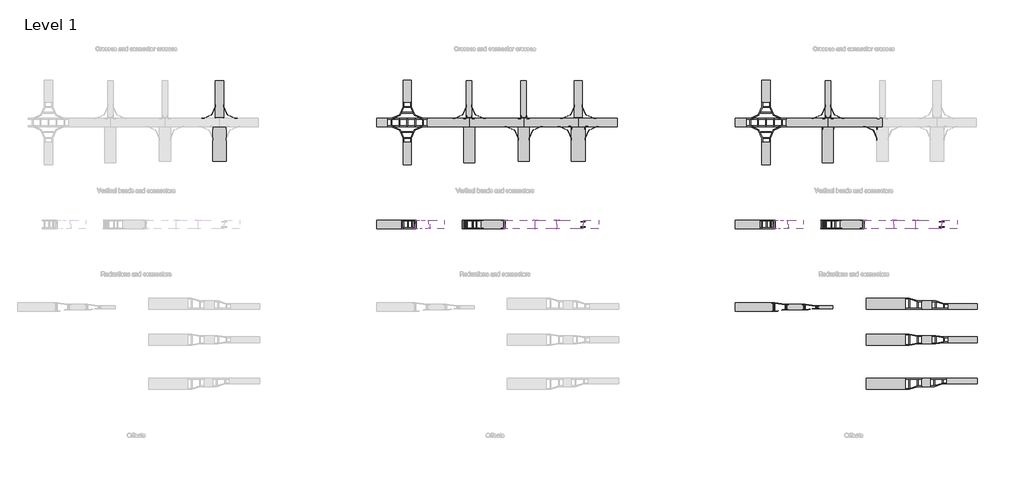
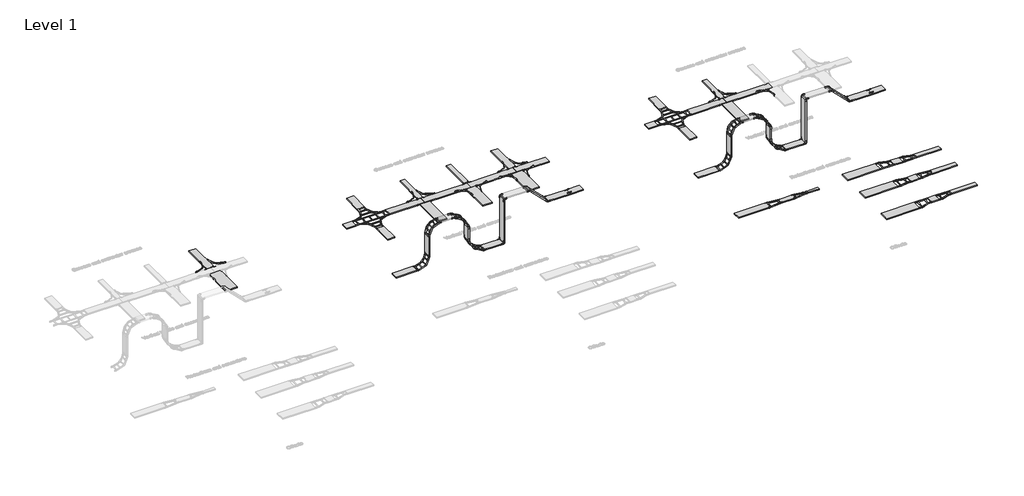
# One storey, part 14 of 106: 70 cable carrier fittings, 54 cable carrier segments.
"""IFC4 building model written with IfcOpenShell, lengths in millimetres."""

from ifc_helpers import new_model, si_unit, frame, origin, place, context, project, spatial, polyline, outline, extrude, transform, mapped, element, save
from components import cable_carrier_fitting_c78842c5, cable_carrier_fitting_c1e814a0, cable_carrier_fitting_2d894193, cable_carrier_fitting_655502a1, cable_carrier_fitting_0f11f104, cable_carrier_fitting_28cc8021, cable_carrier_fitting_3c98dc92, cable_carrier_fitting_6c66d9f1, cable_carrier_fitting_4c1293df, cable_carrier_fitting_edb32cbd, cable_carrier_fitting_a9217249, cable_carrier_fitting_c660702d, cable_carrier_fitting_92366696, cable_carrier_fitting_a2b46a04, cable_carrier_fitting_87479157, cable_carrier_fitting_b11fac2c, cable_carrier_fitting_d4fd6989, cable_carrier_fitting_33a5f9b6, cable_carrier_fitting_a79e1fa7, cable_carrier_fitting_c0237f39, cable_carrier_fitting_32c3d949, cable_carrier_fitting_d229e209, cable_carrier_fitting_202d3e5f, cable_carrier_fitting_3ee89383, cable_carrier_fitting_ec1c524e, cable_carrier_fitting_41da71e9, cable_carrier_fitting_dba92b4f, cable_carrier_fitting_45659740, cable_carrier_fitting_05152c93, cable_carrier_fitting_ca44e503

model = new_model("IFC4")

# Units and contexts
model_context = context("Model", 3, world=origin())
ifc_project = project(units=[si_unit("LENGTHUNIT", "METRE", prefix="MILLI")], contexts=[model_context])

# Site, building, storey
site = spatial("IfcSite", under=ifc_project)
building = spatial("IfcBuilding", under=site)
storey = spatial("IfcBuildingStorey", under=building, Name="Level 1", Elevation=0.0)

# Cable carrier fittings
placement = place(None, origin())
cable_carrier_fitting_shape = cable_carrier_fitting_c78842c5(model_context)
element("IfcCableCarrierFitting", 1, ObjectType="BAKS_LD_CONN_Straight connector_LDC : LDC_H45", at=placement, inside=storey, context=model_context, shape_type="MappedRepresentation", body=[
    mapped(cable_carrier_fitting_shape, transform((46084.5221787, 56106.9805429, 1239.8602102), x_axis=(1.0, 0.0, 0.0), y_axis=(0.0, 1.0, 0.0), z_axis=(0.0, 0.0, 1.0))),
])
element("IfcCableCarrierFitting", 2, ObjectType="BAKS_LD_CONN_Straight connector_LDC : LDC_H45", at=placement, inside=storey, context=model_context, shape_type="MappedRepresentation", body=[
    mapped(cable_carrier_fitting_shape, transform((58984.5221787, 56106.9805429, 1239.8602102), x_axis=(1.0, 0.0, 0.0), y_axis=(0.0, 1.0, 0.0), z_axis=(0.0, 0.0, 1.0))),
])
cable_carrier_fitting_2_shape = cable_carrier_fitting_c1e814a0(model_context)
element("IfcCableCarrierFitting", 3, ObjectType="BAKS_LD_BEND_Articulated connector_LG : LGC_H45", at=placement, inside=storey, context=model_context, shape_type="MappedRepresentation", body=[
    mapped(cable_carrier_fitting_2_shape, transform((57264.3823889, 56356.9805429, 2000.0), x_axis=(1.0, 0.0, 0.0), y_axis=(0.0, 0.0, -1.0), z_axis=(0.0, 1.0, 0.0))),
])
element("IfcCableCarrierFitting", 4, ObjectType="BAKS_LD_BEND_Articulated connector_LG : LGC_H45", at=placement, inside=storey, context=model_context, shape_type="MappedRepresentation", body=[
    mapped(cable_carrier_fitting_2_shape, transform((58024.5221787, 56056.9805429, 1239.8602102), x_axis=(0.7071067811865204, 0.0, -0.7071067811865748), y_axis=(0.7071067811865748, 0.0, 0.7071067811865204), z_axis=(0.0, -1.0, 0.0))),
])
cable_carrier_fitting_3_shape = cable_carrier_fitting_2d894193(model_context)
element("IfcCableCarrierFitting", 5, ObjectType="BAKS_LD_CONN_Angle coupler bendable_LKU : LKUP_H45", at=placement, inside=storey, context=model_context, shape_type="MappedRepresentation", body=[
    mapped(cable_carrier_fitting_3_shape, transform((33162.2849338, 60020.7686574, 30.0), x_axis=(-1.0, 0.0, 0.0), y_axis=(0.0, -1.0, 0.0), z_axis=(0.0, 0.0, 1.0))),
])
element("IfcCableCarrierFitting", 6, ObjectType="BAKS_LD_CONN_Angle coupler bendable_LKU : LKUP_H45", at=placement, inside=storey, context=model_context, shape_type="MappedRepresentation", body=[
    mapped(cable_carrier_fitting_3_shape, transform((42089.2849338, 60020.7686574, 32.5), x_axis=(-1.0, 0.0, 0.0), y_axis=(0.0, -1.0, 0.0), z_axis=(0.0, 0.0, 1.0))),
])
element("IfcCableCarrierFitting", 7, ObjectType="BAKS_LD_CONN_Angle coupler bendable_LKU : LKUP_H45", at=placement, inside=storey, context=model_context, shape_type="MappedRepresentation", body=[
    mapped(cable_carrier_fitting_3_shape, transform((41889.2849338, 60020.7686574, 32.5), x_axis=(0.0, -1.0, 0.0), y_axis=(1.0, 0.0, 0.0), z_axis=(0.0, 0.0, 1.0))),
])
element("IfcCableCarrierFitting", 8, ObjectType="BAKS_LD_CONN_Angle coupler bendable_LKU : LKUP_H45", at=placement, inside=storey, context=model_context, shape_type="MappedRepresentation", body=[
    mapped(cable_carrier_fitting_3_shape, transform((41789.2849338, 59720.7686574, 30.0), x_axis=(1.0, 0.0, 0.0), y_axis=(0.0, 1.0, 0.0), z_axis=(0.0, 0.0, 1.0))),
])
element("IfcCableCarrierFitting", 9, ObjectType="BAKS_LD_CONN_Angle coupler bendable_LKU : LKUP_H45", at=placement, inside=storey, context=model_context, shape_type="MappedRepresentation", body=[
    mapped(cable_carrier_fitting_3_shape, transform((44050.9231102, 60020.7686574, 32.5), x_axis=(-1.0, 0.0, 0.0), y_axis=(0.0, -1.0, 0.0), z_axis=(0.0, 0.0, 1.0))),
])
element("IfcCableCarrierFitting", 10, ObjectType="BAKS_LD_CONN_Angle coupler bendable_LKU : LKUP_H45", at=placement, inside=storey, context=model_context, shape_type="MappedRepresentation", body=[
    mapped(cable_carrier_fitting_3_shape, transform((43850.9231102, 60020.7686574, 32.5), x_axis=(0.0, -1.0, 0.0), y_axis=(1.0, 0.0, 0.0), z_axis=(0.0, 0.0, 1.0))),
])
element("IfcCableCarrierFitting", 11, ObjectType="BAKS_LD_CONN_Angle coupler bendable_LKU : LKUP_H45", at=placement, inside=storey, context=model_context, shape_type="MappedRepresentation", body=[
    mapped(cable_carrier_fitting_3_shape, transform((43750.9231102, 59720.7686574, 30.0), x_axis=(1.0, 0.0, 0.0), y_axis=(0.0, 1.0, 0.0), z_axis=(0.0, 0.0, 1.0))),
])
element("IfcCableCarrierFitting", 12, ObjectType="BAKS_LD_CONN_Angle coupler bendable_LKU : LKUP_H45", at=placement, inside=storey, context=model_context, shape_type="MappedRepresentation", body=[
    mapped(cable_carrier_fitting_3_shape, transform((45662.2849338, 59720.7686574, 32.5), x_axis=(1.0, 0.0, 0.0), y_axis=(0.0, 1.0, 0.0), z_axis=(0.0, 0.0, 1.0))),
])
element("IfcCableCarrierFitting", 13, ObjectType="BAKS_LD_CONN_Angle coupler bendable_LKU : LKUP_H45", at=placement, inside=storey, context=model_context, shape_type="MappedRepresentation", body=[
    mapped(cable_carrier_fitting_3_shape, transform((46162.2849338, 59720.7686574, 32.5), x_axis=(0.0, 1.0, 0.0), y_axis=(-1.0, 0.0, 0.0), z_axis=(0.0, 0.0, 1.0))),
])
element("IfcCableCarrierFitting", 14, ObjectType="BAKS_LD_CONN_Angle coupler bendable_LKU : LKUP_H45", at=placement, inside=storey, context=model_context, shape_type="MappedRepresentation", body=[
    mapped(cable_carrier_fitting_3_shape, transform((46062.2849338, 60020.7686574, 30.0), x_axis=(-1.0, 0.0, 0.0), y_axis=(0.0, -1.0, 0.0), z_axis=(0.0, 0.0, 1.0))),
])
cable_carrier_fitting_4_shape = cable_carrier_fitting_655502a1(model_context)
element("IfcCableCarrierFitting", 15, ObjectType="BAKS_LD_CONN_Angle coupler bendable_LKU : LKUC_H45", at=placement, inside=storey, context=model_context, shape_type="MappedRepresentation", body=[
    mapped(cable_carrier_fitting_4_shape, transform((54989.2849338, 60020.7686574, 32.5), x_axis=(-1.0, 0.0, 0.0), y_axis=(0.0, -1.0, 0.0), z_axis=(0.0, 0.0, 1.0))),
])
element("IfcCableCarrierFitting", 16, ObjectType="BAKS_LD_CONN_Angle coupler bendable_LKU : LKUC_H45", at=placement, inside=storey, context=model_context, shape_type="MappedRepresentation", body=[
    mapped(cable_carrier_fitting_4_shape, transform((54789.2849338, 60020.7686574, 32.5), x_axis=(0.0, -1.0, 0.0), y_axis=(1.0, 0.0, 0.0), z_axis=(0.0, 0.0, 1.0))),
])
element("IfcCableCarrierFitting", 17, ObjectType="BAKS_LD_CONN_Angle coupler bendable_LKU : LKUC_H45", at=placement, inside=storey, context=model_context, shape_type="MappedRepresentation", body=[
    mapped(cable_carrier_fitting_4_shape, transform((54689.2849338, 59720.7686574, 30.0), x_axis=(1.0, 0.0, 0.0), y_axis=(0.0, 1.0, 0.0), z_axis=(0.0, 0.0, 1.0))),
])
element("IfcCableCarrierFitting", 18, ObjectType="BAKS_LD_CONN_Angle coupler bendable_LKU : LKUC_H45", at=placement, inside=storey, context=model_context, shape_type="MappedRepresentation", body=[
    mapped(cable_carrier_fitting_4_shape, transform((56650.9231102, 59720.7686574, 30.0), x_axis=(1.0, 0.0, 0.0), y_axis=(0.0, 1.0, 0.0), z_axis=(0.0, 0.0, 1.0))),
])
cable_carrier_fitting_5_shape = cable_carrier_fitting_0f11f104(model_context)
element("IfcCableCarrierFitting", 19, ObjectType="BAKS_LD_CONN_Addon connector_LDDK : LDDKP", at=placement, inside=storey, context=model_context, shape_type="MappedRepresentation", body=[
    mapped(cable_carrier_fitting_5_shape, transform((33162.2849338, 60020.7686574, 55.0), x_axis=(-1.0, 0.0, 0.0), y_axis=(0.0, -1.0, 0.0), z_axis=(0.0, 0.0, 1.0))),
])
element("IfcCableCarrierFitting", 20, ObjectType="BAKS_LD_CONN_Addon connector_LDDK : LDDKP", at=placement, inside=storey, context=model_context, shape_type="MappedRepresentation", body=[
    mapped(cable_carrier_fitting_5_shape, transform((42089.2849338, 60020.7686574, 55.0), x_axis=(-1.0, 0.0, 0.0), y_axis=(0.0, -1.0, 0.0), z_axis=(0.0, 0.0, 1.0))),
])
element("IfcCableCarrierFitting", 21, ObjectType="BAKS_LD_CONN_Addon connector_LDDK : LDDKP", at=placement, inside=storey, context=model_context, shape_type="MappedRepresentation", body=[
    mapped(cable_carrier_fitting_5_shape, transform((43750.9231102, 59720.7686574, 55.0), x_axis=(1.0, 0.0, 0.0), y_axis=(0.0, 1.0, 0.0), z_axis=(0.0, 0.0, 1.0))),
])
element("IfcCableCarrierFitting", 22, ObjectType="BAKS_LD_CONN_Addon connector_LDDK : LDDKP", at=placement, inside=storey, context=model_context, shape_type="MappedRepresentation", body=[
    mapped(cable_carrier_fitting_5_shape, transform((45662.2849338, 59720.7686574, 55.0), x_axis=(1.0, 0.0, 0.0), y_axis=(0.0, 1.0, 0.0), z_axis=(0.0, 0.0, 1.0))),
])
element("IfcCableCarrierFitting", 23, ObjectType="BAKS_LD_CONN_Addon connector_LDDK : LDDKP", at=placement, inside=storey, context=model_context, shape_type="MappedRepresentation", body=[
    mapped(cable_carrier_fitting_5_shape, transform((46062.2849338, 60020.7686574, 55.0), x_axis=(-1.0, 0.0, 0.0), y_axis=(0.0, -1.0, 0.0), z_axis=(0.0, 0.0, 1.0))),
])
element("IfcCableCarrierFitting", 24, ObjectType="BAKS_LD_CONN_Addon connector_LDDK : LDDKP", at=placement, inside=storey, context=model_context, shape_type="MappedRepresentation", body=[
    mapped(cable_carrier_fitting_5_shape, transform((54989.2849338, 60020.7686574, 55.0), x_axis=(-1.0, 0.0, 0.0), y_axis=(0.0, -1.0, 0.0), z_axis=(0.0, 0.0, 1.0))),
])
element("IfcCableCarrierFitting", 25, ObjectType="BAKS_LD_CONN_Addon connector_LDDK : LDDKP", at=placement, inside=storey, context=model_context, shape_type="MappedRepresentation", body=[
    mapped(cable_carrier_fitting_5_shape, transform((56650.9231102, 59720.7686574, 55.0), x_axis=(1.0, 0.0, 0.0), y_axis=(0.0, 1.0, 0.0), z_axis=(0.0, 0.0, 1.0))),
])
cable_carrier_fitting_6_shape = cable_carrier_fitting_28cc8021(model_context)
element("IfcCableCarrierFitting", 26, ObjectType="BAKS_LD_RED_Straight reducer_RD : RD(S/L/P)C_H45", at=placement, inside=storey, context=model_context, shape_type="MappedRepresentation", body=[
    mapped(cable_carrier_fitting_6_shape, transform((57665.5222547, 52057.8476348, 55.0), x_axis=(1.0, 0.0, 0.0), y_axis=(0.0, 1.0, 0.0), z_axis=(0.0, 0.0, 1.0))),
])
cable_carrier_fitting_7_shape = cable_carrier_fitting_3c98dc92(model_context)
element("IfcCableCarrierFitting", 27, ObjectType="BAKS_LD_BEND_Vertical bend 90deg external_LPDZ : LPDZP_H45", at=placement, inside=storey, context=model_context, shape_type="MappedRepresentation", body=[
    mapped(cable_carrier_fitting_7_shape, transform((40064.3823889, 56206.9805429, 1900.0), x_axis=(0.0, 0.0, 1.0), y_axis=(1.0, 0.0, 0.0), z_axis=(0.0, 1.0, 0.0))),
])
cable_carrier_fitting_8_shape = cable_carrier_fitting_6c66d9f1(model_context)
element("IfcCableCarrierFitting", 28, ObjectType="BAKS_LD_BEND_Articulated connector_LG : LGT_H45", at=placement, inside=storey, context=model_context, shape_type="MappedRepresentation", body=[
    mapped(cable_carrier_fitting_8_shape, transform((43264.3823889, 56056.9805429, 0.0), x_axis=(1.0, 0.0, 0.0), y_axis=(0.0, 0.0, 1.0), z_axis=(0.0, -1.0, 0.0))),
])
element("IfcCableCarrierFitting", 29, ObjectType="BAKS_LD_BEND_Articulated connector_LG : LGT_H45", at=placement, inside=storey, context=model_context, shape_type="MappedRepresentation", body=[
    mapped(cable_carrier_fitting_8_shape, transform((43264.3823889, 56356.9805429, 2000.0), x_axis=(0.0, 0.0, 1.0), y_axis=(1.0, 0.0, 0.0), z_axis=(0.0, 1.0, 0.0))),
])
cable_carrier_fitting_9_shape = cable_carrier_fitting_4c1293df(model_context)
element("IfcCableCarrierFitting", 30, ObjectType="BAKS_LD_BEND_Articulated connector_LG : LGT_H45", at=placement, inside=storey, context=model_context, shape_type="MappedRepresentation", body=[
    mapped(cable_carrier_fitting_9_shape, transform((43264.3823889, 56356.9805429, 0.0), x_axis=(1.0, 0.0, 0.0), y_axis=(0.0, 0.0, -1.0), z_axis=(0.0, 1.0, 0.0))),
])
element("IfcCableCarrierFitting", 31, ObjectType="BAKS_LD_BEND_Articulated connector_LG : LGT_H45", at=placement, inside=storey, context=model_context, shape_type="MappedRepresentation", body=[
    mapped(cable_carrier_fitting_9_shape, transform((43264.3823889, 56056.9805429, 2000.0), x_axis=(0.0, 0.0, 1.0), y_axis=(-1.0, 0.0, 0.0), z_axis=(0.0, -1.0, 0.0))),
])
cable_carrier_fitting_10_shape = cable_carrier_fitting_edb32cbd(model_context)
element("IfcCableCarrierFitting", 32, ObjectType="BAKS_LD_CROSS_Horizontal cross over_CZD : CZDP_H45", at=placement, inside=storey, context=model_context, shape_type="MappedRepresentation", body=[
    mapped(cable_carrier_fitting_10_shape, transform((39764.7261828, 59870.7686574, 55.0), x_axis=(-1.0, 0.0, 0.0), y_axis=(0.0, -1.0, 0.0), z_axis=(0.0, 0.0, 1.0))),
])
cable_carrier_fitting_11_shape = cable_carrier_fitting_a9217249(model_context)
element("IfcCableCarrierFitting", 33, ObjectType="BAKS_LD_CONN_Addon connector_LDDK : LDDKP", at=placement, inside=storey, context=model_context, shape_type="MappedRepresentation", body=[
    mapped(cable_carrier_fitting_11_shape, transform((32862.2849338, 60020.7686574, 55.0), x_axis=(1.0, 0.0, 0.0), y_axis=(0.0, 1.0, 0.0), z_axis=(0.0, 0.0, 1.0))),
])
element("IfcCableCarrierFitting", 34, ObjectType="BAKS_LD_CONN_Addon connector_LDDK : LDDKP", at=placement, inside=storey, context=model_context, shape_type="MappedRepresentation", body=[
    mapped(cable_carrier_fitting_11_shape, transform((41889.2849338, 60020.7686574, 55.0), x_axis=(1.0, 0.0, 0.0), y_axis=(0.0, 1.0, 0.0), z_axis=(0.0, 0.0, 1.0))),
])
element("IfcCableCarrierFitting", 35, ObjectType="BAKS_LD_CONN_Addon connector_LDDK : LDDKP", at=placement, inside=storey, context=model_context, shape_type="MappedRepresentation", body=[
    mapped(cable_carrier_fitting_11_shape, transform((44150.9231102, 59720.7686574, 55.0), x_axis=(-1.0, 0.0, 0.0), y_axis=(0.0, -1.0, 0.0), z_axis=(0.0, 0.0, 1.0))),
])
element("IfcCableCarrierFitting", 36, ObjectType="BAKS_LD_CONN_Addon connector_LDDK : LDDKP", at=placement, inside=storey, context=model_context, shape_type="MappedRepresentation", body=[
    mapped(cable_carrier_fitting_11_shape, transform((46162.2849338, 59720.7686574, 55.0), x_axis=(-1.0, 0.0, 0.0), y_axis=(0.0, -1.0, 0.0), z_axis=(0.0, 0.0, 1.0))),
])
element("IfcCableCarrierFitting", 37, ObjectType="BAKS_LD_CONN_Addon connector_LDDK : LDDKP", at=placement, inside=storey, context=model_context, shape_type="MappedRepresentation", body=[
    mapped(cable_carrier_fitting_11_shape, transform((45762.2849338, 60020.7686574, 55.0), x_axis=(1.0, 0.0, 0.0), y_axis=(0.0, 1.0, 0.0), z_axis=(0.0, 0.0, 1.0))),
])
element("IfcCableCarrierFitting", 38, ObjectType="BAKS_LD_CONN_Addon connector_LDDK : LDDKP", at=placement, inside=storey, context=model_context, shape_type="MappedRepresentation", body=[
    mapped(cable_carrier_fitting_11_shape, transform((54789.2849338, 60020.7686574, 55.0), x_axis=(1.0, 0.0, 0.0), y_axis=(0.0, 1.0, 0.0), z_axis=(0.0, 0.0, 1.0))),
])
cable_carrier_fitting_12_shape = cable_carrier_fitting_c660702d(model_context)
element("IfcCableCarrierFitting", 39, ObjectType="BAKS_LD_CONN_Angle coupler bendable_LKU : LKUP_H45", at=placement, inside=storey, context=model_context, shape_type="MappedRepresentation", body=[
    mapped(cable_carrier_fitting_12_shape, transform((32862.2849338, 60020.7686574, 30.0), x_axis=(1.0, 0.0, 0.0), y_axis=(0.0, 1.0, 0.0), z_axis=(0.0, 0.0, 1.0))),
])
element("IfcCableCarrierFitting", 40, ObjectType="BAKS_LD_CONN_Angle coupler bendable_LKU : LKUP_H45", at=placement, inside=storey, context=model_context, shape_type="MappedRepresentation", body=[
    mapped(cable_carrier_fitting_12_shape, transform((42189.2849338, 59720.7686574, 30.0), x_axis=(-1.0, 0.0, 0.0), y_axis=(0.0, -1.0, 0.0), z_axis=(0.0, 0.0, 1.0))),
])
element("IfcCableCarrierFitting", 41, ObjectType="BAKS_LD_CONN_Angle coupler bendable_LKU : LKUP_H45", at=placement, inside=storey, context=model_context, shape_type="MappedRepresentation", body=[
    mapped(cable_carrier_fitting_12_shape, transform((44150.9231102, 59720.7686574, 30.0), x_axis=(-1.0, 0.0, 0.0), y_axis=(0.0, -1.0, 0.0), z_axis=(0.0, 0.0, 1.0))),
])
element("IfcCableCarrierFitting", 42, ObjectType="BAKS_LD_CONN_Angle coupler bendable_LKU : LKUP_H45", at=placement, inside=storey, context=model_context, shape_type="MappedRepresentation", body=[
    mapped(cable_carrier_fitting_12_shape, transform((45762.2849338, 60020.7686574, 30.0), x_axis=(1.0, 0.0, 0.0), y_axis=(0.0, 1.0, 0.0), z_axis=(0.0, 0.0, 1.0))),
])
cable_carrier_fitting_13_shape = cable_carrier_fitting_92366696(model_context)
cable_carrier_fitting_14_shape = cable_carrier_fitting_a2b46a04(model_context)
element("IfcCableCarrierFitting", 43, ObjectType="BAKS_LD_BEND_Adjustable vertical bend_LPD : LPDP_H45", at=placement, inside=storey, context=model_context, shape_type="MappedRepresentation", body=[
    mapped(cable_carrier_fitting_13_shape, transform((41764.3823889, 56206.9805429, 1900.0), x_axis=(1.0, 0.0, 0.0), y_axis=(0.0, 0.0, -1.0), z_axis=(0.0, 1.0, 0.0))),
    mapped(cable_carrier_fitting_14_shape, transform((41764.3823889, 56206.9805429, 1900.0), x_axis=(1.0, 0.0, 0.0), y_axis=(0.0, 0.0, -1.0), z_axis=(0.0, 1.0, 0.0))),
])
element("IfcCableCarrierFitting", 44, ObjectType="BAKS_LD_BEND_Adjustable vertical bend_LPD : LPDP_H45", at=placement, inside=storey, context=model_context, shape_type="MappedRepresentation", body=[
    mapped(cable_carrier_fitting_13_shape, transform((41764.3823889, 56206.9805429, 0.0), x_axis=(0.0, 0.0, -1.0), y_axis=(1.0, 0.0, 0.0), z_axis=(0.0, -1.0, 0.0))),
    mapped(cable_carrier_fitting_14_shape, transform((41764.3823889, 56206.9805429, 0.0), x_axis=(0.0, 0.0, -1.0), y_axis=(1.0, 0.0, 0.0), z_axis=(0.0, -1.0, 0.0))),
])
cable_carrier_fitting_15_shape = cable_carrier_fitting_87479157(model_context)
element("IfcCableCarrierFitting", 45, ObjectType="BAKS_LD_BEND_Articulated connector_LG : LGT_H45", at=placement, inside=storey, context=model_context, shape_type="MappedRepresentation", body=[
    mapped(cable_carrier_fitting_15_shape, transform((44364.3823889, 56356.9805429, 2000.0), x_axis=(1.0, 0.0, 0.0), y_axis=(0.0, 0.0, -1.0), z_axis=(0.0, 1.0, 0.0))),
])
element("IfcCableCarrierFitting", 46, ObjectType="BAKS_LD_BEND_Articulated connector_LG : LGT_H45", at=placement, inside=storey, context=model_context, shape_type="MappedRepresentation", body=[
    mapped(cable_carrier_fitting_15_shape, transform((45124.5221787, 56056.9805429, 1239.8602102), x_axis=(0.7071067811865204, 0.0, -0.7071067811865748), y_axis=(0.7071067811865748, 0.0, 0.7071067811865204), z_axis=(0.0, -1.0, 0.0))),
])
cable_carrier_fitting_16_shape = cable_carrier_fitting_b11fac2c(model_context)
element("IfcCableCarrierFitting", 47, ObjectType="BAKS_LD_BEND_Articulated connector_LG : LGT_H45", at=placement, inside=storey, context=model_context, shape_type="MappedRepresentation", body=[
    mapped(cable_carrier_fitting_16_shape, transform((44364.3823889, 56056.9805429, 2000.0), x_axis=(1.0, 0.0, 0.0), y_axis=(0.0, 0.0, 1.0), z_axis=(0.0, -1.0, 0.0))),
])
element("IfcCableCarrierFitting", 48, ObjectType="BAKS_LD_BEND_Articulated connector_LG : LGT_H45", at=placement, inside=storey, context=model_context, shape_type="MappedRepresentation", body=[
    mapped(cable_carrier_fitting_16_shape, transform((45124.5221787, 56356.9805429, 1239.8602102), x_axis=(0.7071067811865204, 0.0, -0.7071067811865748), y_axis=(-0.7071067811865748, 0.0, -0.7071067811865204), z_axis=(0.0, 1.0, 0.0))),
])
element("IfcCableCarrierFitting", 49, ObjectType="BAKS_LD_BEND_Vertical bend 90deg internal_LPDW : LPDWP_H45", at=placement, inside=storey, context=model_context, shape_type="MappedRepresentation", body=[
    mapped(cable_carrier_fitting_7_shape, transform((40064.3823889, 56206.9805429, 55.0), x_axis=(1.0, 0.0, 0.0), y_axis=(0.0, 0.0, 1.0), z_axis=(0.0, -1.0, 0.0))),
])
element("IfcCableCarrierFitting", 50, ObjectType="BAKS_LD_CROSS_Horizontal cross over_CZD : CZDC_H45", at=placement, inside=storey, context=model_context, shape_type="MappedRepresentation", body=[
    mapped(cable_carrier_fitting_10_shape, transform((52664.7261828, 59870.7686574, 55.0), x_axis=(-1.0, 0.0, 0.0), y_axis=(0.0, -1.0, 0.0), z_axis=(0.0, 0.0, 1.0))),
])
cable_carrier_fitting_17_shape = cable_carrier_fitting_d4fd6989(model_context)
element("IfcCableCarrierFitting", 51, ObjectType="BAKS_LD_CONN_Angle coupler bendable_LKU : LKUC_H45", at=placement, inside=storey, context=model_context, shape_type="MappedRepresentation", body=[
    mapped(cable_carrier_fitting_17_shape, transform((55089.2849338, 59720.7686574, 30.0), x_axis=(-1.0, 0.0, 0.0), y_axis=(0.0, -1.0, 0.0), z_axis=(0.0, 0.0, 1.0))),
])
element("IfcCableCarrierFitting", 52, ObjectType="BAKS_LD_BEND_Vertical bend 90deg internal_LPDW : LPDWC_H45", at=placement, inside=storey, context=model_context, shape_type="MappedRepresentation", body=[
    mapped(cable_carrier_fitting_7_shape, transform((52964.3823889, 56206.9805429, 55.0), x_axis=(1.0, 0.0, 0.0), y_axis=(0.0, 0.0, 1.0), z_axis=(0.0, -1.0, 0.0))),
])
element("IfcCableCarrierFitting", 53, ObjectType="BAKS_LD_BEND_Vertical bend 90deg external_LPDZ : LPDZC_H45", at=placement, inside=storey, context=model_context, shape_type="MappedRepresentation", body=[
    mapped(cable_carrier_fitting_7_shape, transform((52964.3823889, 56206.9805429, 1900.0), x_axis=(0.0, 0.0, 1.0), y_axis=(1.0, 0.0, 0.0), z_axis=(0.0, 1.0, 0.0))),
])
cable_carrier_fitting_18_shape = cable_carrier_fitting_33a5f9b6(model_context)
cable_carrier_fitting_19_shape = cable_carrier_fitting_a79e1fa7(model_context)
element("IfcCableCarrierFitting", 54, ObjectType="BAKS_LD_BEND_Adjustable vertical bend_LPD : LPDC_H45", at=placement, inside=storey, context=model_context, shape_type="MappedRepresentation", body=[
    mapped(cable_carrier_fitting_18_shape, transform((54664.3823889, 56206.9805429, 1900.0), x_axis=(1.0, 0.0, 0.0), y_axis=(0.0, 0.0, -1.0), z_axis=(0.0, 1.0, 0.0))),
    mapped(cable_carrier_fitting_19_shape, transform((54664.3823889, 56206.9805429, 1900.0), x_axis=(1.0, 0.0, 0.0), y_axis=(0.0, 0.0, -1.0), z_axis=(0.0, 1.0, 0.0))),
])
element("IfcCableCarrierFitting", 55, ObjectType="BAKS_LD_BEND_Adjustable vertical bend_LPD : LPDC_H45", at=placement, inside=storey, context=model_context, shape_type="MappedRepresentation", body=[
    mapped(cable_carrier_fitting_18_shape, transform((54664.3823889, 56206.9805429, 0.0), x_axis=(0.0, 0.0, -1.0), y_axis=(1.0, 0.0, 0.0), z_axis=(0.0, -1.0, 0.0))),
    mapped(cable_carrier_fitting_19_shape, transform((54664.3823889, 56206.9805429, 0.0), x_axis=(0.0, 0.0, -1.0), y_axis=(1.0, 0.0, 0.0), z_axis=(0.0, -1.0, 0.0))),
])
cable_carrier_fitting_20_shape = cable_carrier_fitting_c0237f39(model_context)
element("IfcCableCarrierFitting", 56, ObjectType="BAKS_LD_BEND_Articulated connector_LG : LGC_H45", at=placement, inside=storey, context=model_context, shape_type="MappedRepresentation", body=[
    mapped(cable_carrier_fitting_20_shape, transform((56164.3823889, 56056.9805429, 0.0), x_axis=(1.0, 0.0, 0.0), y_axis=(0.0, 0.0, 1.0), z_axis=(0.0, -1.0, 0.0))),
])
element("IfcCableCarrierFitting", 57, ObjectType="BAKS_LD_BEND_Articulated connector_LG : LGC_H45", at=placement, inside=storey, context=model_context, shape_type="MappedRepresentation", body=[
    mapped(cable_carrier_fitting_20_shape, transform((56164.3823889, 56356.9805429, 2000.0), x_axis=(0.0, 0.0, 1.0), y_axis=(1.0, 0.0, 0.0), z_axis=(0.0, 1.0, 0.0))),
])
cable_carrier_fitting_21_shape = cable_carrier_fitting_32c3d949(model_context)
element("IfcCableCarrierFitting", 58, ObjectType="BAKS_LD_BEND_Articulated connector_LG : LGC_H45", at=placement, inside=storey, context=model_context, shape_type="MappedRepresentation", body=[
    mapped(cable_carrier_fitting_21_shape, transform((56164.3823889, 56356.9805429, 0.0), x_axis=(1.0, 0.0, 0.0), y_axis=(0.0, 0.0, -1.0), z_axis=(0.0, 1.0, 0.0))),
])
element("IfcCableCarrierFitting", 59, ObjectType="BAKS_LD_BEND_Articulated connector_LG : LGC_H45", at=placement, inside=storey, context=model_context, shape_type="MappedRepresentation", body=[
    mapped(cable_carrier_fitting_21_shape, transform((56164.3823889, 56056.9805429, 2000.0), x_axis=(0.0, 0.0, 1.0), y_axis=(-1.0, 0.0, 0.0), z_axis=(0.0, -1.0, 0.0))),
])
cable_carrier_fitting_22_shape = cable_carrier_fitting_d229e209(model_context)
element("IfcCableCarrierFitting", 60, ObjectType="BAKS_LD_BEND_Articulated connector_LG : LGC_H45", at=placement, inside=storey, context=model_context, shape_type="MappedRepresentation", body=[
    mapped(cable_carrier_fitting_22_shape, transform((57264.3823889, 56056.9805429, 2000.0), x_axis=(1.0, 0.0, 0.0), y_axis=(0.0, 0.0, 1.0), z_axis=(0.0, -1.0, 0.0))),
])
element("IfcCableCarrierFitting", 61, ObjectType="BAKS_LD_BEND_Articulated connector_LG : LGC_H45", at=placement, inside=storey, context=model_context, shape_type="MappedRepresentation", body=[
    mapped(cable_carrier_fitting_22_shape, transform((58024.5221787, 56356.9805429, 1239.8602102), x_axis=(0.7071067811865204, 0.0, -0.7071067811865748), y_axis=(-0.7071067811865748, 0.0, -0.7071067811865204), z_axis=(0.0, 1.0, 0.0))),
])
cable_carrier_fitting_23_shape = cable_carrier_fitting_202d3e5f(model_context)
element("IfcCableCarrierFitting", 62, ObjectType="BAKS_LD_CONN_Univarsal connector reduction_LLUS : LLUS_H45", at=placement, inside=storey, context=model_context, shape_type="MappedRepresentation", body=[
    mapped(cable_carrier_fitting_23_shape, transform((52864.3823889, 53231.6579459, 55.0), x_axis=(1.0, 0.0, 0.0), y_axis=(0.0, 1.0, 0.0), z_axis=(0.0, 0.0, 1.0))),
])
cable_carrier_fitting_24_shape = cable_carrier_fitting_3ee89383(model_context)
element("IfcCableCarrierFitting", 63, ObjectType="BAKS_LD_CONN_Univarsal connector reduction_LLUS : LLUS_H45", at=placement, inside=storey, context=model_context, shape_type="MappedRepresentation", body=[
    mapped(cable_carrier_fitting_24_shape, transform((53964.3823889, 53231.6579459, 55.0), x_axis=(1.0, 0.0, 0.0), y_axis=(0.0, 1.0, 0.0), z_axis=(0.0, 0.0, 1.0))),
])
cable_carrier_fitting_25_shape = cable_carrier_fitting_ec1c524e(model_context)
element("IfcCableCarrierFitting", 64, ObjectType="BAKS_LD_RED_Straight reducer_RD : RD(S/L/P)C_H45", at=placement, inside=storey, context=model_context, shape_type="MappedRepresentation", body=[
    mapped(cable_carrier_fitting_25_shape, transform((57665.5222547, 53357.8476348, 55.0), x_axis=(1.0, 0.0, 0.0), y_axis=(0.0, 1.0, 0.0), z_axis=(0.0, 0.0, 1.0))),
])
cable_carrier_fitting_26_shape = cable_carrier_fitting_41da71e9(model_context)
element("IfcCableCarrierFitting", 65, ObjectType="BAKS_LD_RED_Straight reducer_RD : RD(S/L/P)C_H45", at=placement, inside=storey, context=model_context, shape_type="MappedRepresentation", body=[
    mapped(cable_carrier_fitting_26_shape, transform((59216.5656993, 53257.8476348, 55.0), x_axis=(-1.0, 0.0, 0.0), y_axis=(0.0, -1.0, 0.0), z_axis=(0.0, 0.0, 1.0))),
])
cable_carrier_fitting_27_shape = cable_carrier_fitting_dba92b4f(model_context)
element("IfcCableCarrierFitting", 66, ObjectType="BAKS_LD_RED_Straight reducer_RD : RD(S/L/P)C_H45", at=placement, inside=storey, context=model_context, shape_type="MappedRepresentation", body=[
    mapped(cable_carrier_fitting_27_shape, transform((57665.5222547, 50471.6579459, 55.0), x_axis=(1.0, 0.0, 0.0), y_axis=(0.0, 1.0, 0.0), z_axis=(0.0, 0.0, 1.0))),
])
cable_carrier_fitting_28_shape = cable_carrier_fitting_45659740(model_context)
element("IfcCableCarrierFitting", 67, ObjectType="BAKS_LD_RED_Straight reducer_RD : RD(S/L/P)C_H45", at=placement, inside=storey, context=model_context, shape_type="MappedRepresentation", body=[
    mapped(cable_carrier_fitting_28_shape, transform((59165.5222547, 50571.6579459, 55.0), x_axis=(-1.0, 0.0, 0.0), y_axis=(0.0, -1.0, 0.0), z_axis=(0.0, 0.0, 1.0))),
])
cable_carrier_fitting_29_shape = cable_carrier_fitting_05152c93(model_context)
element("IfcCableCarrierFitting", 68, ObjectType="BAKS_LD_RED_Straight reducer_RD : RD(S/L/P)C_H45", at=placement, inside=storey, context=model_context, shape_type="MappedRepresentation", body=[
    mapped(cable_carrier_fitting_29_shape, transform((59216.5656993, 52057.8476348, 55.0), x_axis=(-1.0, 0.0, 0.0), y_axis=(0.0, -1.0, 0.0), z_axis=(0.0, 0.0, 1.0))),
])
cable_carrier_fitting_30_shape = cable_carrier_fitting_ca44e503(model_context)
element("IfcCableCarrierFitting", 69, ObjectType="BAKS_LD_CONN_Straight connector_LDC : LDC_H45", at=placement, inside=storey, context=model_context, shape_type="MappedRepresentation", body=[
    mapped(cable_carrier_fitting_30_shape, transform((46084.5221787, 56306.9805429, 1239.8602102), x_axis=(1.0, 0.0, 0.0), y_axis=(0.0, 1.0, 0.0), z_axis=(0.0, 0.0, 1.0))),
])
element("IfcCableCarrierFitting", 70, ObjectType="BAKS_LD_CONN_Straight connector_LDC : LDC_H45", at=placement, inside=storey, context=model_context, shape_type="MappedRepresentation", body=[
    mapped(cable_carrier_fitting_30_shape, transform((58984.5221787, 56306.9805429, 1239.8602102), x_axis=(1.0, 0.0, 0.0), y_axis=(0.0, 1.0, 0.0), z_axis=(0.0, 0.0, 1.0))),
])

# Cable carrier segments
element("IfcCableCarrierSegment", 71, ObjectType="BAKS - Ladder H45 (DKD)", at=placement, inside=storey, context=model_context, shape_type="SweptSolid", body=[
    extrude(outline(polyline([(33162.2849338, 60050.7686574), (32862.2849338, 60050.7686574), (32862.2849338, 61370.7686574), (33162.2849338, 61370.7686574), (33162.2849338, 60050.7686574)])), frame((0.0, 0.0, 32.5), z_axis=(0.0, 0.0, 1.0), x_axis=(1.0, 0.0, 0.0)), (0.0, 0.0, 1.0), 45.0),
])
element("IfcCableCarrierSegment", 72, ObjectType="BAKS - Ladder H45 (DKD)", at=placement, inside=storey, context=model_context, shape_type="SweptSolid", body=[
    extrude(outline(polyline([(32762.2849338, 59690.7686574), (33262.2849338, 59690.7686574), (33262.2849338, 58470.7686574), (32762.2849338, 58470.7686574), (32762.2849338, 59690.7686574)])), frame((0.0, 0.0, 32.5), z_axis=(0.0, 0.0, 1.0), x_axis=(1.0, 0.0, 0.0)), (0.0, 0.0, 1.0), 45.0),
])
element("IfcCableCarrierSegment", 73, ObjectType="BAKS - Ladder H45 (DKP)", at=placement, inside=storey, context=model_context, shape_type="SweptSolid", body=[
    extrude(outline(polyline([(43952.4231102, 59720.7686574), (43952.4231102, 60020.7686574), (45910.7849338, 60020.7686574), (45910.7849338, 59720.7686574), (43952.4231102, 59720.7686574)])), frame((0.0, 0.0, 32.5), z_axis=(0.0, 0.0, 1.0), x_axis=(1.0, 0.0, 0.0)), (0.0, 0.0, 1.0), 45.0),
])
element("IfcCableCarrierSegment", 74, ObjectType="BAKS - Ladder H45 (DKP)", at=placement, inside=storey, context=model_context, shape_type="SweptSolid", body=[
    extrude(outline(polyline([(38664.3823889, 59720.7686574), (38664.3823889, 60020.7686574), (39044.7261828, 60020.7686574), (39044.7261828, 59720.7686574), (38664.3823889, 59720.7686574)])), frame((0.0, 0.0, 32.5), z_axis=(0.0, 0.0, 1.0), x_axis=(1.0, 0.0, 0.0)), (0.0, 0.0, 1.0), 45.0),
])
element("IfcCableCarrierSegment", 75, ObjectType="BAKS - Ladder H45 (DKP)", at=placement, inside=storey, context=model_context, shape_type="SweptSolid", body=[
    extrude(outline(polyline([(40484.7261828, 59720.7686574), (40484.7261828, 60020.7686574), (41987.7849338, 60020.7686574), (41987.7849338, 59720.7686574), (40484.7261828, 59720.7686574)])), frame((0.0, 0.0, 32.5), z_axis=(0.0, 0.0, 1.0), x_axis=(1.0, 0.0, 0.0)), (0.0, 0.0, 1.0), 45.0),
])
element("IfcCableCarrierSegment", 76, ObjectType="BAKS - Ladder H45 (DKP)", at=placement, inside=storey, context=model_context, shape_type="SweptSolid", body=[
    extrude(outline(polyline([(41990.7849338, 59720.7686574), (41990.7849338, 60020.7686574), (43949.4231102, 60020.7686574), (43949.4231102, 59720.7686574), (41990.7849338, 59720.7686574)])), frame((0.0, 0.0, 32.5), z_axis=(0.0, 0.0, 1.0), x_axis=(1.0, 0.0, 0.0)), (0.0, 0.0, 1.0), 45.0),
])
element("IfcCableCarrierSegment", 77, ObjectType="BAKS - Ladder H45 (DKP)", at=placement, inside=storey, context=model_context, shape_type="SweptSolid", body=[
    extrude(outline(polyline([(39914.7261828, 60590.7686574), (39614.7261828, 60590.7686574), (39614.7261828, 61390.7686574), (39914.7261828, 61390.7686574), (39914.7261828, 60590.7686574)])), frame((0.0, 0.0, 32.5), z_axis=(0.0, 0.0, 1.0), x_axis=(1.0, 0.0, 0.0)), (0.0, 0.0, 1.0), 45.0),
])
element("IfcCableCarrierSegment", 78, ObjectType="BAKS - Ladder H45 (DKP)", at=placement, inside=storey, context=model_context, shape_type="SweptSolid", body=[
    extrude(outline(polyline([(39614.7261828, 59150.7686574), (39914.7261828, 59150.7686574), (39914.7261828, 58350.7686574), (39614.7261828, 58350.7686574), (39614.7261828, 59150.7686574)])), frame((0.0, 0.0, 32.5), z_axis=(0.0, 0.0, 1.0), x_axis=(1.0, 0.0, 0.0)), (0.0, 0.0, 1.0), 45.0),
])
element("IfcCableCarrierSegment", 79, ObjectType="BAKS - Ladder H45 (DKP)", at=placement, inside=storey, context=model_context, shape_type="SweptSolid", body=[
    extrude(outline(polyline([(42089.2849338, 60050.7686574), (41889.2849338, 60050.7686574), (41889.2849338, 61370.7686574), (42089.2849338, 61370.7686574), (42089.2849338, 60050.7686574)])), frame((0.0, 0.0, 32.5), z_axis=(0.0, 0.0, 1.0), x_axis=(1.0, 0.0, 0.0)), (0.0, 0.0, 1.0), 45.0),
])
element("IfcCableCarrierSegment", 80, ObjectType="BAKS - Ladder H45 (DKP)", at=placement, inside=storey, context=model_context, shape_type="SweptSolid", body=[
    extrude(outline(polyline([(41789.2849338, 59690.7686574), (42189.2849338, 59690.7686574), (42189.2849338, 58430.7686574), (41789.2849338, 58430.7686574), (41789.2849338, 59690.7686574)])), frame((0.0, 0.0, 32.5), z_axis=(0.0, 0.0, 1.0), x_axis=(1.0, 0.0, 0.0)), (0.0, 0.0, 1.0), 45.0),
])
element("IfcCableCarrierSegment", 81, ObjectType="BAKS - Ladder H45 (DKP)", at=placement, inside=storey, context=model_context, shape_type="SweptSolid", body=[
    extrude(outline(polyline([(44050.9231102, 60050.7686574), (43850.9231102, 60050.7686574), (43850.9231102, 61370.7686574), (44050.9231102, 61370.7686574), (44050.9231102, 60050.7686574)])), frame((0.0, 0.0, 32.5), z_axis=(0.0, 0.0, 1.0), x_axis=(1.0, 0.0, 0.0)), (0.0, 0.0, 1.0), 45.0),
])
element("IfcCableCarrierSegment", 82, ObjectType="BAKS - Ladder H45 (DKP)", at=placement, inside=storey, context=model_context, shape_type="SweptSolid", body=[
    extrude(outline(polyline([(43750.9231102, 59690.7686574), (44150.9231102, 59690.7686574), (44150.9231102, 58470.7686574), (43750.9231102, 58470.7686574), (43750.9231102, 59690.7686574)])), frame((0.0, 0.0, 32.5), z_axis=(0.0, 0.0, 1.0), x_axis=(1.0, 0.0, 0.0)), (0.0, 0.0, 1.0), 45.0),
])
element("IfcCableCarrierSegment", 83, ObjectType="BAKS - Ladder H45 (DKP)", at=placement, inside=storey, context=model_context, shape_type="SweptSolid", body=[
    extrude(outline(polyline([(45913.7849338, 59720.7686574), (45913.7849338, 60020.7686574), (47313.7849338, 60020.7686574), (47313.7849338, 59720.7686574), (45913.7849338, 59720.7686574)])), frame((0.0, 0.0, 32.5), z_axis=(0.0, 0.0, 1.0), x_axis=(1.0, 0.0, 0.0)), (0.0, 0.0, 1.0), 45.0),
])
element("IfcCableCarrierSegment", 84, ObjectType="BAKS - Ladder H45 (DKP)", at=placement, inside=storey, context=model_context, shape_type="SweptSolid", body=[
    extrude(outline(polyline([(46062.2849338, 60050.7686574), (45762.2849338, 60050.7686574), (45762.2849338, 61370.7686574), (46062.2849338, 61370.7686574), (46062.2849338, 60050.7686574)])), frame((0.0, 0.0, 32.5), z_axis=(0.0, 0.0, 1.0), x_axis=(1.0, 0.0, 0.0)), (0.0, 0.0, 1.0), 45.0),
])
element("IfcCableCarrierSegment", 85, ObjectType="BAKS - Ladder H45 (DKP)", at=placement, inside=storey, context=model_context, shape_type="SweptSolid", body=[
    extrude(outline(polyline([(45662.2849338, 59690.7686574), (46162.2849338, 59690.7686574), (46162.2849338, 58470.7686574), (45662.2849338, 58470.7686574), (45662.2849338, 59690.7686574)])), frame((0.0, 0.0, 32.5), z_axis=(0.0, 0.0, 1.0), x_axis=(1.0, 0.0, 0.0)), (0.0, 0.0, 1.0), 45.0),
])
element("IfcCableCarrierSegment", 86, ObjectType="BAKS - Ladder H45 (DKP)", at=placement, inside=storey, context=model_context, shape_type="SweptSolid", body=[
    extrude(outline(polyline([(38664.3823889, 56056.9805429), (38664.3823889, 56356.9805429), (39541.8823889, 56356.9805429), (39541.8823889, 56056.9805429), (38664.3823889, 56056.9805429)])), frame((0.0, 0.0, 32.5), z_axis=(0.0, 0.0, 1.0), x_axis=(1.0, 0.0, 0.0)), (0.0, 0.0, 1.0), 45.0),
])
element("IfcCableCarrierSegment", 87, ObjectType="BAKS - Ladder H45 (DKP)", at=placement, inside=storey, context=model_context, shape_type="SweptSolid", body=[
    extrude(outline(polyline([(40586.8823889, 56056.9805429), (40586.8823889, 56356.9805429), (41099.6709572, 56356.9805429), (41099.6709572, 56056.9805429), (40586.8823889, 56056.9805429)])), frame((0.0, 0.0, 1877.5), z_axis=(0.0, 0.0, 1.0), x_axis=(1.0, 0.0, 0.0)), (0.0, 0.0, 1.0), 45.0),
])
element("IfcCableCarrierSegment", 88, ObjectType="BAKS - Ladder H45 (DKP)", at=placement, inside=storey, context=model_context, shape_type="SweptSolid", body=[
    extrude(outline(polyline([(40041.8823889, 56356.9805429), (40086.8823889, 56356.9805429), (40086.8823889, 56056.9805429), (40041.8823889, 56056.9805429), (40041.8823889, 56356.9805429)])), frame((0.0, 0.0, 577.5), z_axis=(0.0, 0.0, 1.0), x_axis=(1.0, 0.0, 0.0)), (0.0, 0.0, 1.0), 800.0),
])
element("IfcCableCarrierSegment", 89, ObjectType="BAKS - Ladder H45 (DKP)", at=placement, inside=storey, context=model_context, shape_type="SweptSolid", body=[
    extrude(outline(polyline([(42429.0938206, 56056.9805429), (42429.0938206, 56356.9805429), (43239.3823889, 56356.9805429), (43239.3823889, 56056.9805429), (42429.0938206, 56056.9805429)])), frame((0.0, 0.0, -22.5), z_axis=(0.0, 0.0, 1.0), x_axis=(1.0, 0.0, 0.0)), (0.0, 0.0, 1.0), 45.0),
])
element("IfcCableCarrierSegment", 90, ObjectType="BAKS - Ladder H45 (DKP)", at=placement, inside=storey, context=model_context, shape_type="SweptSolid", body=[
    extrude(outline(polyline([(41786.8823889, 56356.9805429), (41786.8823889, 56056.9805429), (41741.8823889, 56056.9805429), (41741.8823889, 56356.9805429), (41786.8823889, 56356.9805429)])), frame((0.0, 0.0, 664.7114317), z_axis=(0.0, 0.0, 1.0), x_axis=(1.0, 0.0, 0.0)), (0.0, 0.0, 1.0), 570.5771366),
])
element("IfcCableCarrierSegment", 91, ObjectType="BAKS - Ladder H45 (DKP)", at=placement, inside=storey, context=model_context, shape_type="SweptSolid", body=[
    extrude(outline(polyline([(43289.3823889, 56056.9805429), (43289.3823889, 56356.9805429), (44339.3823889, 56356.9805429), (44339.3823889, 56056.9805429), (43289.3823889, 56056.9805429)])), frame((0.0, 0.0, 1977.5), z_axis=(0.0, 0.0, 1.0), x_axis=(1.0, 0.0, 0.0)), (0.0, 0.0, 1.0), 45.0),
])
element("IfcCableCarrierSegment", 92, ObjectType="BAKS - Ladder H45 (DKP)", at=placement, inside=storey, context=model_context, shape_type="SweptSolid", body=[
    extrude(outline(polyline([(43286.8823889, 56056.9805429), (43241.8823889, 56056.9805429), (43241.8823889, 56356.9805429), (43286.8823889, 56356.9805429), (43286.8823889, 56056.9805429)])), frame((0.0, 0.0, 25.0), z_axis=(0.0, 0.0, 1.0), x_axis=(1.0, 0.0, 0.0)), (0.0, 0.0, 1.0), 1950.0),
])
element("IfcCableCarrierSegment", 93, ObjectType="BAKS - Ladder H45 (DKP)", at=placement, inside=storey, context=model_context, shape_type="SweptSolid", body=[
    extrude(outline(polyline([(0.0, -300.0), (0.0, 0.0), (1025.0, 0.0), (1025.0, -300.0), (0.0, -300.0)])), frame((44366.1501559, 56356.9805429, 1966.4124279), z_axis=(0.7071067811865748, 0.0, 0.7071067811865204), x_axis=(0.7071067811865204, 0.0, -0.7071067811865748)), (0.0, 0.0, 1.0), 45.0),
])
element("IfcCableCarrierSegment", 94, ObjectType="BAKS - Ladder H45 (DKP)", at=placement, inside=storey, context=model_context, shape_type="SweptSolid", body=[
    extrude(outline(polyline([(46085.5221787, 56056.9805429), (46085.5221787, 56356.9805429), (46644.5221787, 56356.9805429), (46644.5221787, 56056.9805429), (46085.5221787, 56056.9805429)])), frame((0.0, 0.0, 1217.3602102), z_axis=(0.0, 0.0, 1.0), x_axis=(1.0, 0.0, 0.0)), (0.0, 0.0, 1.0), 45.0),
])
element("IfcCableCarrierSegment", 95, ObjectType="BAKS - Ladder H45 (DKP)", at=placement, inside=storey, context=model_context, shape_type="SweptSolid", body=[
    extrude(outline(polyline([(45149.5221787, 56056.9805429), (45149.5221787, 56356.9805429), (46084.5221787, 56356.9805429), (46084.5221787, 56056.9805429), (45149.5221787, 56056.9805429)])), frame((0.0, 0.0, 1217.3602102), z_axis=(0.0, 0.0, 1.0), x_axis=(1.0, 0.0, 0.0)), (0.0, 0.0, 1.0), 45.0),
])
element("IfcCableCarrierSegment", 96, ObjectType="BAKS - Ladder H45 (DKC)", at=placement, inside=storey, context=model_context, shape_type="SweptSolid", body=[
    extrude(outline(polyline([(51564.3823889, 59720.7686574), (51564.3823889, 60020.7686574), (51944.7261828, 60020.7686574), (51944.7261828, 59720.7686574), (51564.3823889, 59720.7686574)])), frame((0.0, 0.0, 32.5), z_axis=(0.0, 0.0, 1.0), x_axis=(1.0, 0.0, 0.0)), (0.0, 0.0, 1.0), 45.0),
])
element("IfcCableCarrierSegment", 97, ObjectType="BAKS - Ladder H45 (DKC)", at=placement, inside=storey, context=model_context, shape_type="SweptSolid", body=[
    extrude(outline(polyline([(53384.7261828, 59720.7686574), (53384.7261828, 60020.7686574), (54887.7849338, 60020.7686574), (54887.7849338, 59720.7686574), (53384.7261828, 59720.7686574)])), frame((0.0, 0.0, 32.5), z_axis=(0.0, 0.0, 1.0), x_axis=(1.0, 0.0, 0.0)), (0.0, 0.0, 1.0), 45.0),
])
element("IfcCableCarrierSegment", 98, ObjectType="BAKS - Ladder H45 (DKC)", at=placement, inside=storey, context=model_context, shape_type="SweptSolid", body=[
    extrude(outline(polyline([(54890.7849338, 59720.7686574), (54890.7849338, 60020.7686574), (56849.4231102, 60020.7686574), (56849.4231102, 59720.7686574), (54890.7849338, 59720.7686574)])), frame((0.0, 0.0, 32.5), z_axis=(0.0, 0.0, 1.0), x_axis=(1.0, 0.0, 0.0)), (0.0, 0.0, 1.0), 45.0),
])
element("IfcCableCarrierSegment", 99, ObjectType="BAKS - Ladder H45 (DKC)", at=placement, inside=storey, context=model_context, shape_type="SweptSolid", body=[
    extrude(outline(polyline([(52814.7261828, 60590.7686574), (52514.7261828, 60590.7686574), (52514.7261828, 61390.7686574), (52814.7261828, 61390.7686574), (52814.7261828, 60590.7686574)])), frame((0.0, 0.0, 32.5), z_axis=(0.0, 0.0, 1.0), x_axis=(1.0, 0.0, 0.0)), (0.0, 0.0, 1.0), 45.0),
])
element("IfcCableCarrierSegment", 100, ObjectType="BAKS - Ladder H45 (DKC)", at=placement, inside=storey, context=model_context, shape_type="SweptSolid", body=[
    extrude(outline(polyline([(52514.7261828, 59150.7686574), (52814.7261828, 59150.7686574), (52814.7261828, 58350.7686574), (52514.7261828, 58350.7686574), (52514.7261828, 59150.7686574)])), frame((0.0, 0.0, 32.5), z_axis=(0.0, 0.0, 1.0), x_axis=(1.0, 0.0, 0.0)), (0.0, 0.0, 1.0), 45.0),
])
element("IfcCableCarrierSegment", 101, ObjectType="BAKS - Ladder H45 (DKC)", at=placement, inside=storey, context=model_context, shape_type="SweptSolid", body=[
    extrude(outline(polyline([(54989.2849338, 60050.7686574), (54789.2849338, 60050.7686574), (54789.2849338, 61370.7686574), (54989.2849338, 61370.7686574), (54989.2849338, 60050.7686574)])), frame((0.0, 0.0, 32.5), z_axis=(0.0, 0.0, 1.0), x_axis=(1.0, 0.0, 0.0)), (0.0, 0.0, 1.0), 45.0),
])
element("IfcCableCarrierSegment", 102, ObjectType="BAKS - Ladder H45 (DKC)", at=placement, inside=storey, context=model_context, shape_type="SweptSolid", body=[
    extrude(outline(polyline([(54689.2849338, 59690.7686574), (55089.2849338, 59690.7686574), (55089.2849338, 58430.7686574), (54689.2849338, 58430.7686574), (54689.2849338, 59690.7686574)])), frame((0.0, 0.0, 32.5), z_axis=(0.0, 0.0, 1.0), x_axis=(1.0, 0.0, 0.0)), (0.0, 0.0, 1.0), 45.0),
])
element("IfcCableCarrierSegment", 103, ObjectType="BAKS - Ladder H45 (DKC)", at=placement, inside=storey, context=model_context, shape_type="SweptSolid", body=[
    extrude(outline(polyline([(51564.3823889, 56056.9805429), (51564.3823889, 56356.9805429), (52441.8823889, 56356.9805429), (52441.8823889, 56056.9805429), (51564.3823889, 56056.9805429)])), frame((0.0, 0.0, 32.5), z_axis=(0.0, 0.0, 1.0), x_axis=(1.0, 0.0, 0.0)), (0.0, 0.0, 1.0), 45.0),
])
element("IfcCableCarrierSegment", 104, ObjectType="BAKS - Ladder H45 (DKC)", at=placement, inside=storey, context=model_context, shape_type="SweptSolid", body=[
    extrude(outline(polyline([(53486.8823889, 56056.9805429), (53486.8823889, 56356.9805429), (53999.6709572, 56356.9805429), (53999.6709572, 56056.9805429), (53486.8823889, 56056.9805429)])), frame((0.0, 0.0, 1877.5), z_axis=(0.0, 0.0, 1.0), x_axis=(1.0, 0.0, 0.0)), (0.0, 0.0, 1.0), 45.0),
])
element("IfcCableCarrierSegment", 105, ObjectType="BAKS - Ladder H45 (DKC)", at=placement, inside=storey, context=model_context, shape_type="SweptSolid", body=[
    extrude(outline(polyline([(52986.8823889, 56056.9805429), (52941.8823889, 56056.9805429), (52941.8823889, 56356.9805429), (52986.8823889, 56356.9805429), (52986.8823889, 56056.9805429)])), frame((0.0, 0.0, 577.5), z_axis=(0.0, 0.0, 1.0), x_axis=(1.0, 0.0, 0.0)), (0.0, 0.0, 1.0), 800.0),
])
element("IfcCableCarrierSegment", 106, ObjectType="BAKS - Ladder H45 (DKC)", at=placement, inside=storey, context=model_context, shape_type="SweptSolid", body=[
    extrude(outline(polyline([(55329.0938206, 56056.9805429), (55329.0938206, 56356.9805429), (56139.3823889, 56356.9805429), (56139.3823889, 56056.9805429), (55329.0938206, 56056.9805429)])), frame((0.0, 0.0, -22.5), z_axis=(0.0, 0.0, 1.0), x_axis=(1.0, 0.0, 0.0)), (0.0, 0.0, 1.0), 45.0),
])
element("IfcCableCarrierSegment", 107, ObjectType="BAKS - Ladder H45 (DKC)", at=placement, inside=storey, context=model_context, shape_type="SweptSolid", body=[
    extrude(outline(polyline([(54686.8823889, 56356.9805429), (54686.8823889, 56056.9805429), (54641.8823889, 56056.9805429), (54641.8823889, 56356.9805429), (54686.8823889, 56356.9805429)])), frame((0.0, 0.0, 664.7114317), z_axis=(0.0, 0.0, 1.0), x_axis=(1.0, 0.0, 0.0)), (0.0, 0.0, 1.0), 570.5771366),
])
element("IfcCableCarrierSegment", 108, ObjectType="BAKS - Ladder H45 (DKC)", at=placement, inside=storey, context=model_context, shape_type="SweptSolid", body=[
    extrude(outline(polyline([(56189.3823889, 56056.9805429), (56189.3823889, 56356.9805429), (57239.3823889, 56356.9805429), (57239.3823889, 56056.9805429), (56189.3823889, 56056.9805429)])), frame((0.0, 0.0, 1977.5), z_axis=(0.0, 0.0, 1.0), x_axis=(1.0, 0.0, 0.0)), (0.0, 0.0, 1.0), 45.0),
])
element("IfcCableCarrierSegment", 109, ObjectType="BAKS - Ladder H45 (DKC)", at=placement, inside=storey, context=model_context, shape_type="SweptSolid", body=[
    extrude(outline(polyline([(56186.8823889, 56056.9805429), (56141.8823889, 56056.9805429), (56141.8823889, 56356.9805429), (56186.8823889, 56356.9805429), (56186.8823889, 56056.9805429)])), frame((0.0, 0.0, 25.0), z_axis=(0.0, 0.0, 1.0), x_axis=(1.0, 0.0, 0.0)), (0.0, 0.0, 1.0), 1950.0),
])
element("IfcCableCarrierSegment", 110, ObjectType="BAKS - Ladder H45 (DKC)", at=placement, inside=storey, context=model_context, shape_type="SweptSolid", body=[
    extrude(outline(polyline([(0.0, -300.0), (0.0, 0.0), (1025.0, 0.0), (1025.0, -300.0), (0.0, -300.0)])), frame((57266.1501559, 56356.9805429, 1966.4124279), z_axis=(0.7071067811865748, 0.0, 0.7071067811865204), x_axis=(0.7071067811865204, 0.0, -0.7071067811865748)), (0.0, 0.0, 1.0), 45.0),
])
element("IfcCableCarrierSegment", 111, ObjectType="BAKS - Ladder H45 (DKC)", at=placement, inside=storey, context=model_context, shape_type="SweptSolid", body=[
    extrude(outline(polyline([(58985.5221787, 56056.9805429), (58985.5221787, 56356.9805429), (59544.5221787, 56356.9805429), (59544.5221787, 56056.9805429), (58985.5221787, 56056.9805429)])), frame((0.0, 0.0, 1217.3602102), z_axis=(0.0, 0.0, 1.0), x_axis=(1.0, 0.0, 0.0)), (0.0, 0.0, 1.0), 45.0),
])
element("IfcCableCarrierSegment", 112, ObjectType="BAKS - Ladder H45 (DKC)", at=placement, inside=storey, context=model_context, shape_type="SweptSolid", body=[
    extrude(outline(polyline([(58049.5221787, 56056.9805429), (58049.5221787, 56356.9805429), (58984.5221787, 56356.9805429), (58984.5221787, 56056.9805429), (58049.5221787, 56056.9805429)])), frame((0.0, 0.0, 1217.3602102), z_axis=(0.0, 0.0, 1.0), x_axis=(1.0, 0.0, 0.0)), (0.0, 0.0, 1.0), 45.0),
])
element("IfcCableCarrierSegment", 113, ObjectType="BAKS - Ladder H45 (DKC)", at=placement, inside=storey, context=model_context, shape_type="SweptSolid", body=[
    extrude(outline(polyline([(51564.3823889, 53081.6579459), (51564.3823889, 53381.6579459), (52909.3823889, 53381.6579459), (52909.3823889, 53081.6579459), (51564.3823889, 53081.6579459)])), frame((0.0, 0.0, 32.5), z_axis=(0.0, 0.0, 1.0), x_axis=(1.0, 0.0, 0.0)), (0.0, 0.0, 1.0), 45.0),
])
element("IfcCableCarrierSegment", 114, ObjectType="BAKS - Ladder H45 (DKC)", at=placement, inside=storey, context=model_context, shape_type="SweptSolid", body=[
    extrude(outline(polyline([(53419.3823889, 53131.6579459), (53419.3823889, 53331.6579459), (54009.3823889, 53331.6579459), (54009.3823889, 53131.6579459), (53419.3823889, 53131.6579459)])), frame((0.0, 0.0, 32.5), z_axis=(0.0, 0.0, 1.0), x_axis=(1.0, 0.0, 0.0)), (0.0, 0.0, 1.0), 45.0),
])
element("IfcCableCarrierSegment", 115, ObjectType="BAKS - Ladder H45 (DKC)", at=placement, inside=storey, context=model_context, shape_type="SweptSolid", body=[
    extrude(outline(polyline([(54519.3823889, 53181.6579459), (54519.3823889, 53281.6579459), (55064.3823889, 53281.6579459), (55064.3823889, 53181.6579459), (54519.3823889, 53181.6579459)])), frame((0.0, 0.0, 32.5), z_axis=(0.0, 0.0, 1.0), x_axis=(1.0, 0.0, 0.0)), (0.0, 0.0, 1.0), 45.0),
])
element("IfcCableCarrierSegment", 116, ObjectType="BAKS - Ladder H45 (DKC)", at=placement, inside=storey, context=model_context, shape_type="SweptSolid", body=[
    extrude(outline(polyline([(58565.5222547, 50671.6579459), (58565.5222547, 50371.6579459), (58265.5222547, 50371.6579459), (58265.5222547, 50671.6579459), (58565.5222547, 50671.6579459)])), frame((0.0, 0.0, 32.5), z_axis=(0.0, 0.0, 1.0), x_axis=(1.0, 0.0, 0.0)), (0.0, 0.0, 1.0), 45.0),
])
element("IfcCableCarrierSegment", 117, ObjectType="BAKS - Ladder H45 (DKC)", at=placement, inside=storey, context=model_context, shape_type="SweptSolid", body=[
    extrude(outline(polyline([(56265.5222547, 50271.6579459), (56265.5222547, 50671.6579459), (57665.5222547, 50671.6579459), (57665.5222547, 50271.6579459), (56265.5222547, 50271.6579459)])), frame((0.0, 0.0, 32.5), z_axis=(0.0, 0.0, 1.0), x_axis=(1.0, 0.0, 0.0)), (0.0, 0.0, 1.0), 45.0),
])
element("IfcCableCarrierSegment", 118, ObjectType="BAKS - Ladder H45 (DKC)", at=placement, inside=storey, context=model_context, shape_type="SweptSolid", body=[
    extrude(outline(polyline([(60265.5222547, 50671.6579459), (60265.5222547, 50471.6579459), (59165.5222547, 50471.6579459), (59165.5222547, 50671.6579459), (60265.5222547, 50671.6579459)])), frame((0.0, 0.0, 32.5), z_axis=(0.0, 0.0, 1.0), x_axis=(1.0, 0.0, 0.0)), (0.0, 0.0, 1.0), 45.0),
])
element("IfcCableCarrierSegment", 119, ObjectType="BAKS - Ladder H45 (DKC)", at=placement, inside=storey, context=model_context, shape_type="SweptSolid", body=[
    extrude(outline(polyline([(58616.5656993, 53457.8476348), (58616.5656993, 53157.8476348), (58265.5222547, 53157.8476348), (58265.5222547, 53457.8476348), (58616.5656993, 53457.8476348)])), frame((0.0, 0.0, 32.5), z_axis=(0.0, 0.0, 1.0), x_axis=(1.0, 0.0, 0.0)), (0.0, 0.0, 1.0), 45.0),
])
element("IfcCableCarrierSegment", 120, ObjectType="BAKS - Ladder H45 (DKC)", at=placement, inside=storey, context=model_context, shape_type="SweptSolid", body=[
    extrude(outline(polyline([(56265.5222547, 53157.8476348), (56265.5222547, 53557.8476348), (57665.5222547, 53557.8476348), (57665.5222547, 53157.8476348), (56265.5222547, 53157.8476348)])), frame((0.0, 0.0, 32.5), z_axis=(0.0, 0.0, 1.0), x_axis=(1.0, 0.0, 0.0)), (0.0, 0.0, 1.0), 45.0),
])
element("IfcCableCarrierSegment", 121, ObjectType="BAKS - Ladder H45 (DKC)", at=placement, inside=storey, context=model_context, shape_type="SweptSolid", body=[
    extrude(outline(polyline([(59216.5656993, 53157.8476348), (59216.5656993, 53357.8476348), (60265.5222547, 53357.8476348), (60265.5222547, 53157.8476348), (59216.5656993, 53157.8476348)])), frame((0.0, 0.0, 32.5), z_axis=(0.0, 0.0, 1.0), x_axis=(1.0, 0.0, 0.0)), (0.0, 0.0, 1.0), 45.0),
])
element("IfcCableCarrierSegment", 122, ObjectType="BAKS - Ladder H45 (DKC)", at=placement, inside=storey, context=model_context, shape_type="SweptSolid", body=[
    extrude(outline(polyline([(58616.5656993, 52207.8476348), (58616.5656993, 51907.8476348), (58265.5222547, 51907.8476348), (58265.5222547, 52207.8476348), (58616.5656993, 52207.8476348)])), frame((0.0, 0.0, 32.5), z_axis=(0.0, 0.0, 1.0), x_axis=(1.0, 0.0, 0.0)), (0.0, 0.0, 1.0), 45.0),
])
element("IfcCableCarrierSegment", 123, ObjectType="BAKS - Ladder H45 (DKC)", at=placement, inside=storey, context=model_context, shape_type="SweptSolid", body=[
    extrude(outline(polyline([(60265.5222547, 52157.8476348), (60265.5222547, 51957.8476348), (59216.5656993, 51957.8476348), (59216.5656993, 52157.8476348), (60265.5222547, 52157.8476348)])), frame((0.0, 0.0, 32.5), z_axis=(0.0, 0.0, 1.0), x_axis=(1.0, 0.0, 0.0)), (0.0, 0.0, 1.0), 45.0),
])
element("IfcCableCarrierSegment", 124, ObjectType="BAKS - Ladder H45 (DKC)", at=placement, inside=storey, context=model_context, shape_type="SweptSolid", body=[
    extrude(outline(polyline([(56265.5222547, 51857.8476348), (56265.5222547, 52257.8476348), (57665.5222547, 52257.8476348), (57665.5222547, 51857.8476348), (56265.5222547, 51857.8476348)])), frame((0.0, 0.0, 32.5), z_axis=(0.0, 0.0, 1.0), x_axis=(1.0, 0.0, 0.0)), (0.0, 0.0, 1.0), 45.0),
])

save(model, "model.ifc")
